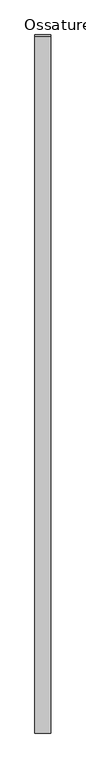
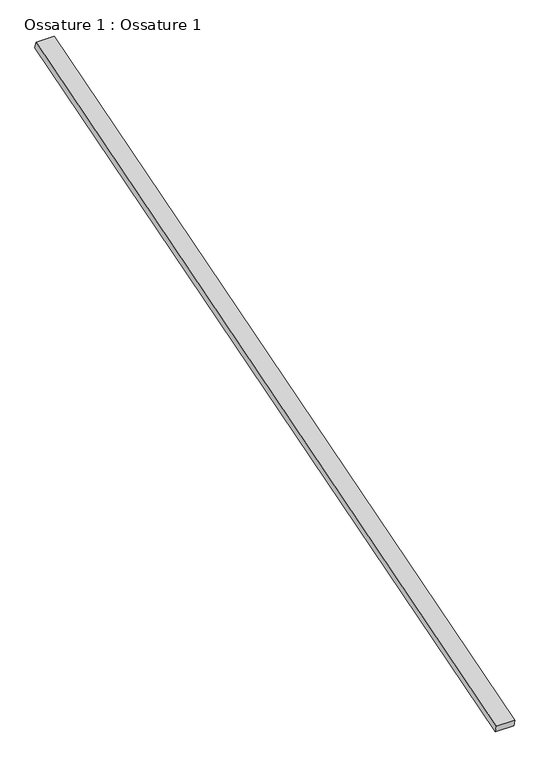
"""IFC4 building model written with IfcOpenShell, lengths in millimetres: beam geometry, Ossature 1 : Ossature 1."""

from ifc_helpers import new_model, si_unit, frame, origin, place, context, project, spatial, polyline, outline, extrude, source, transform, mapped, element, save


def ossature_1_ossature_1_58f217ec(model_context):
    return source(origin(), model_context, "Body", "SweptSolid", [
        extrude(outline(polyline([(0.0, 0.0), (0.0, -4543.0299679), (-100.0, -4543.0299679), (-100.0, 0.0), (0.0, 0.0)])), frame((791.2466393, -833.3913565, 8153.6336115), z_axis=(0.0, -0.28734788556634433, 0.9578262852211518), x_axis=(-1.0, 0.0, 0.0)), (0.0, 0.0, 1.0), 40.0),
    ])


if __name__ == "__main__":
    model = new_model("IFC4")
    model_context = context("Model", 3, world=origin())
    ifc_project = project(units=[si_unit("LENGTHUNIT", "METRE", prefix="MILLI")], contexts=[model_context])
    site = spatial("IfcSite", under=ifc_project)
    building = spatial("IfcBuilding", under=site)
    placement = place(None, origin())
    ossature_1_ossature_1_shape = ossature_1_ossature_1_58f217ec(model_context)
    element("IfcBeam", 1, ObjectType="Ossature 1 : Ossature 1", at=placement, inside=building, context=model_context, shape_type="MappedRepresentation", body=[
        mapped(ossature_1_ossature_1_shape, transform((0.0, 0.0, 0.0), x_axis=(1.0, 0.0, 0.0), y_axis=(0.0, 1.0, 0.0), z_axis=(0.0, 0.0, 1.0))),
    ])
    save(model, "model.ifc")
